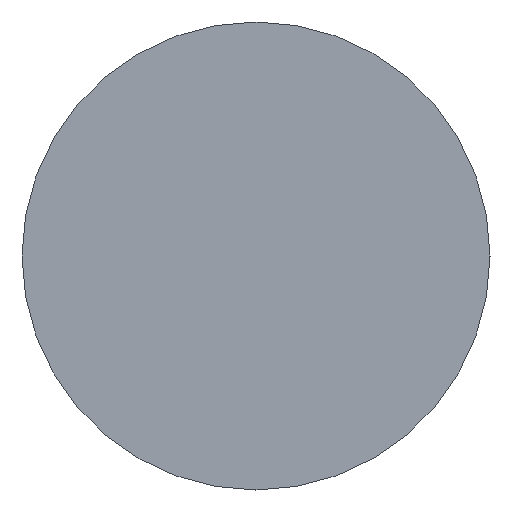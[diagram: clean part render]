
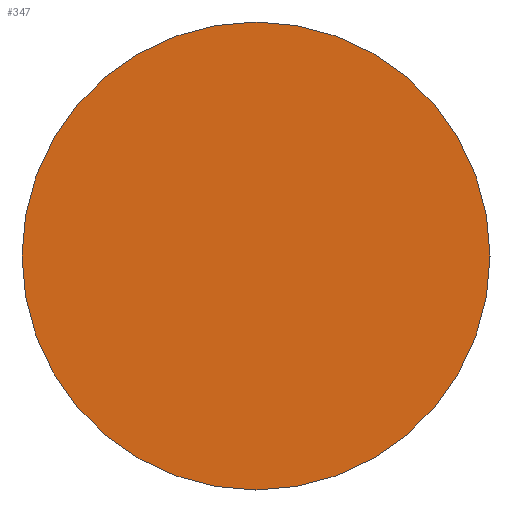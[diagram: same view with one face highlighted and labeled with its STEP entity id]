
A CAD part, left-side view. The second image highlights one B-rep face of the part: STEP entity #347.
In plain terms, the highlighted planar face has unit normal (-1, 0, 0).
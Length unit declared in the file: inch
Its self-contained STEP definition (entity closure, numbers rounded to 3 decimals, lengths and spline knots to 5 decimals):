
#14 = PLANE ( 'NONE',  #166 ) ;
#59 = DIRECTION ( 'NONE',  ( 0., 0., 1. ) ) ;
#68 = VERTEX_POINT ( 'NONE', #109 ) ;
#91 = CIRCLE ( 'NONE', #376, 0.375 ) ;
#109 = CARTESIAN_POINT ( 'NONE',  ( -6., 0., 0.375 ) ) ;
#143 = DIRECTION ( 'NONE',  ( -1., 0., 0. ) ) ;
#146 = FACE_OUTER_BOUND ( 'NONE', #220, .T. ) ;
#166 = AXIS2_PLACEMENT_3D ( 'NONE', #496, #334, #413 ) ;
#183 = CARTESIAN_POINT ( 'NONE',  ( -6., 0., 0. ) ) ;
#220 = EDGE_LOOP ( 'NONE', ( #450, #225 ) ) ;
#225 = ORIENTED_EDGE ( 'NONE', *, *, #324, .T. ) ;
#291 = DIRECTION ( 'NONE',  ( -1., 0., 0. ) ) ;
#319 = CIRCLE ( 'NONE', #477, 0.375 ) ;
#324 = EDGE_CURVE ( 'NONE', #467, #68, #91, .T. ) ;
#329 = DIRECTION ( 'NONE',  ( 0., 0., 1. ) ) ;
#334 = DIRECTION ( 'NONE',  ( 1., 0., 0. ) ) ;
#347 = ADVANCED_FACE ( 'NONE', ( #146 ), #14, .F. ) ;
#376 = AXIS2_PLACEMENT_3D ( 'NONE', #444, #143, #59 ) ;
#413 = DIRECTION ( 'NONE',  ( 0., 0., -1. ) ) ;
#423 = EDGE_CURVE ( 'NONE', #68, #467, #319, .T. ) ;
#444 = CARTESIAN_POINT ( 'NONE',  ( -6., 0., 0. ) ) ;
#450 = ORIENTED_EDGE ( 'NONE', *, *, #423, .T. ) ;
#465 = CARTESIAN_POINT ( 'NONE',  ( -6., 0., -0.375 ) ) ;
#467 = VERTEX_POINT ( 'NONE', #465 ) ;
#477 = AXIS2_PLACEMENT_3D ( 'NONE', #183, #291, #329 ) ;
#496 = CARTESIAN_POINT ( 'NONE',  ( -6., 0.375, 0. ) ) ;
